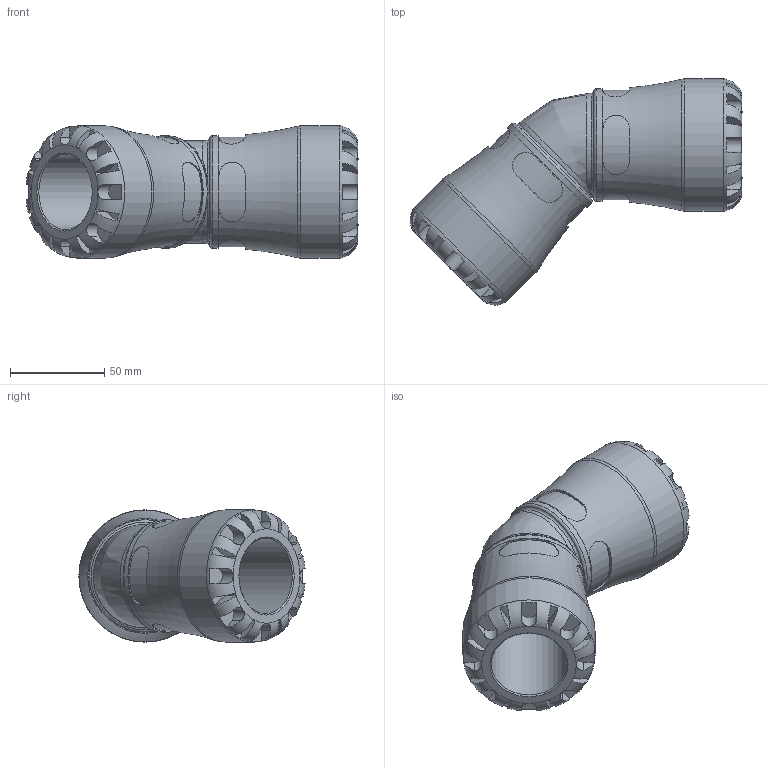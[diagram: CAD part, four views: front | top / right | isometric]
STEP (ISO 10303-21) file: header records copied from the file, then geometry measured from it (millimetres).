
FILE_DESCRIPTION(/* description */ ('PLASSON G-PLASS 45° ELBOW 40-40'),/* implementation_level */ '2;1');
FILE_NAME(/* name */ 'C:\Dropbox\KIMPROJECTS-Inventor 2019\99-16-3568-Processing\S1\150600\stp\150600040.stp',/* time_stamp */ '2023-10-17T19:36:55+03:00',/* author */ ('KIM'),/* organization */ (''),/* preprocessor_version */ 'ST-DEVELOPER v17.2',/* originating_system */ 'Autodesk Inventor 2019',/* authorisation */ '');
FILE_SCHEMA (('AUTOMOTIVE_DESIGN { 1 0 10303 214 3 1 1 }'));
Length unit declared in the file: millimetre
Products named in the file (1): 150600040
Bounding box: 175.77 x 119.77 x 70 mm (x, y, z)
Volume: 352889.6 mm3; surface area: 67501.8 mm2
Topology: 1 solids, 1 shells, 196 faces, 524 edges, 336 vertices
Faces by surface type: plane 116, cylinder 66, torus 11, cone 2, bspline 1
Full cylindrical faces by diameter (mm): 33.333 x2, 40 x2, 59.5 x2, 70 x2
Entity records: 8045 total; most frequent: CARTESIAN_POINT 3007, ORIENTED_EDGE 1044, DIRECTION 1006, EDGE_CURVE 522, AXIS2_PLACEMENT_3D 418, VERTEX_POINT 336, CIRCLE 220, EDGE_LOOP 206
